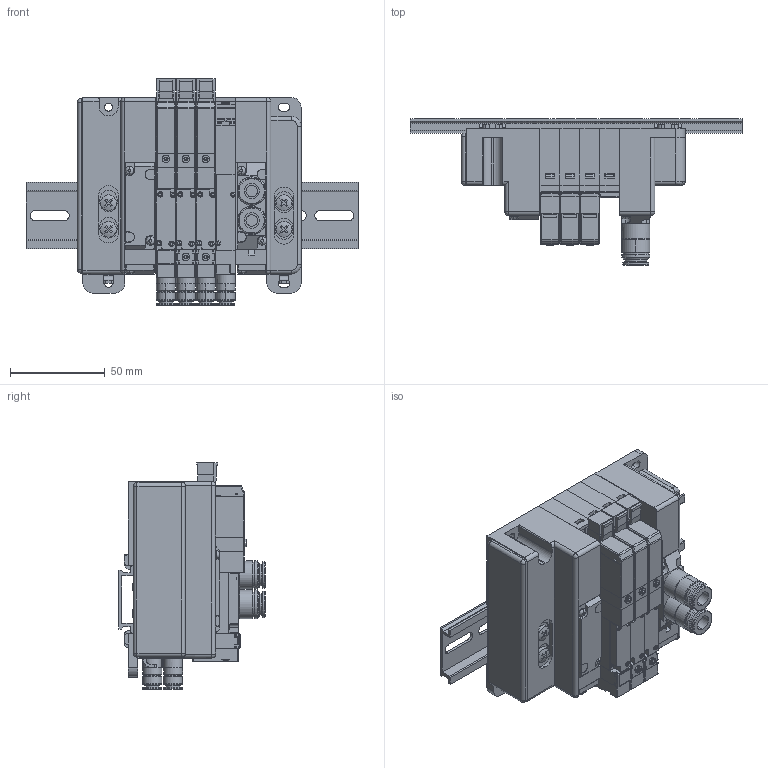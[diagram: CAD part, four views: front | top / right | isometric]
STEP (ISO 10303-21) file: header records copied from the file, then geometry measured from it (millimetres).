
FILE_DESCRIPTION( (''), '2;1');
FILE_NAME ('CVICAD02.9768.F10M4XNJ-JR-DN_10191.stp','2020-08-31T10:40:38',(''),(''),'spGate 12.6.6','','');
FILE_SCHEMA (('AUTOMOTIVE_DESIGN'));
Length unit declared in the file: millimetre
Products named in the file (18): Assembly; F10_EndCover; F10-PP; F10ZX_ValveBaseAssy; F10XBPP; F10_Adptor; F_3PortBody; F10_Cap; F10_SwitchBlock1; F10T_Body; F_Connector-PS; F10_A1; F10_SwitchBlock; F10_VJ; F10ZX-LK-DN; F10ZX-RN-DN; DIN-RAIL175; F10_Port-PJ
Assembly tree (38 placements, depth 2):
  Assembly
    F10_EndCover
    F10-PP  x3
    F10ZX_ValveBaseAssy  x4
    F10XBPP
    F10_Adptor  x3
    F_3PortBody  x3
    F10_Cap  x3
    F10_SwitchBlock1
    F10T_Body  x3
    F_Connector-PS  x3
    F10_A1  x3
    F10_SwitchBlock  x2
    F10_VJ  x4
    F10ZX-LK-DN
    F10ZX-RN-DN
    DIN-RAIL175
    F10_Port-PJ
Bounding box: 175 x 77 x 119.5 mm (x, y, z)
Volume: 362544.1 mm3; surface area: 158840.4 mm2
Topology: 37 solids, 38 shells, 3747 faces, 10086 edges, 6987 vertices
Faces by surface type: plane 2476, cylinder 941, bspline 308, sphere 22
Entity records: 95383 total; most frequent: CARTESIAN_POINT 12676, ORIENTED_EDGE 9601, DIRECTION 8685, COLOUR_RGB 6611, PRESENTATION_STYLE_ASSIGNMENT 6611, STYLED_ITEM 6611, EDGE_CURVE 4802, DRAUGHTING_PRE_DEFINED_CURVE_FONT 4802
